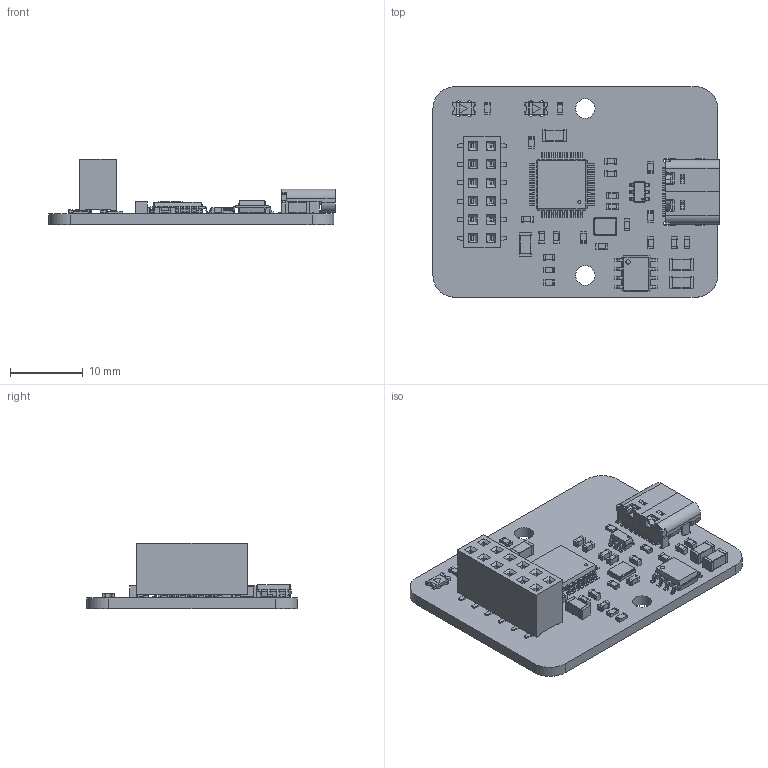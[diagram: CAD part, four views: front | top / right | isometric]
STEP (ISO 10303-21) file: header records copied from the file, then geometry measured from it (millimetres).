
FILE_DESCRIPTION(('KiCad electronic assembly'),'2;1');
FILE_NAME('ui_to_usb.step','2026-01-03T16:53:03',('Pcbnew'),('Kicad'), 'Open CASCADE STEP processor 7.9','KiCad to STEP converter','Unknown' );
FILE_SCHEMA(('AUTOMOTIVE_DESIGN { 1 0 10303 214 1 1 1 1 }'));
Length unit declared in the file: millimetre
Products named in the file (13): ui_to_usb 1; SOT-23-6; C_0603_1608Metric; L_0603_1608Metric; R_0603_1608Metric; C_1206_3216Metric; PinSocket_2x06_P2.54mm_Vertical_SMD; LQFP-48_7x7mm_P0.5mm; SOIC-8_3.9x4.9mm_P1.27mm; LED_1206_3216Metric_Castellated; USB_C_Receptacle_GCT_USB4105-xx-A_16P_TopMnt_Horizontal; Crystal_SMD_3225-4Pin_3.2x2.5mm; ui_to_usb_PCB
Assembly tree (34 placements, depth 2):
  ui_to_usb 1
    SOT-23-6
    C_0603_1608Metric  x9
    L_0603_1608Metric  x4
    R_0603_1608Metric  x8
    C_1206_3216Metric  x4
    PinSocket_2x06_P2.54mm_Vertical_SMD
    LQFP-48_7x7mm_P0.5mm
    SOIC-8_3.9x4.9mm_P1.27mm
    LED_1206_3216Metric_Castellated  x2
    USB_C_Receptacle_GCT_USB4105-xx-A_16P_TopMnt_Horizontal
    Crystal_SMD_3225-4Pin_3.2x2.5mm
    ui_to_usb_PCB
Bounding box: 39.42 x 29 x 9.06 mm (x, y, z)
Volume: 2469.5 mm3; surface area: 4293.2 mm2
Topology: 69 solids, 69 shells, 2861 faces, 7447 edges, 4779 vertices
Faces by surface type: plane 2049, cylinder 756, bspline 48, cone 8
Full cylindrical faces by diameter (mm): 0.5 x2, 0.65 x2, 2.7 x2
Entity records: 87613 total; most frequent: CARTESIAN_POINT 12255, ORIENTED_EDGE 11723, DIRECTION 11279, EDGE_CURVE 5862, LINE 4733, VECTOR 4733, VERTEX_POINT 3733, AXIS2_PLACEMENT_3D 3273
